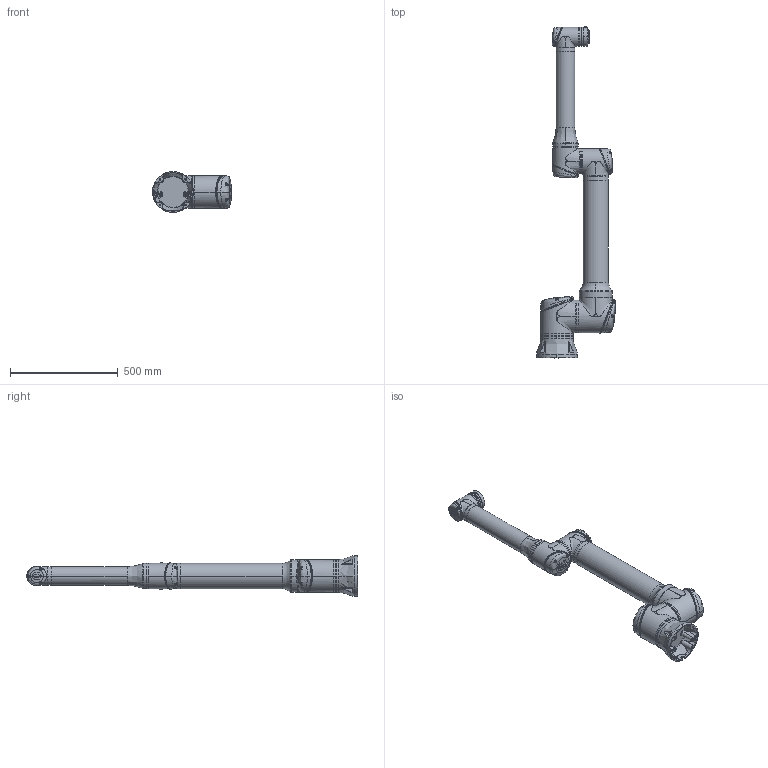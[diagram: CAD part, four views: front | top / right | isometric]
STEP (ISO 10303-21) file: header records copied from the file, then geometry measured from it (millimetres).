
FILE_DESCRIPTION (( 'STEP AP203' ), '1' );
FILE_NAME ('CS_掛极CS515RZ_V1.1.STEP', '2023-10-30T07:51:44', ( '' ), ( '' ), 'SwSTEP 2.0', 'SolidWorks 2017', '' );
FILE_SCHEMA (( 'CONFIG_CONTROL_DESIGN' ));
Length unit declared in the file: millimetre
Products named in the file (7): CS515RZ_Link2; CS515RZ_Flange; CS515RZ_Link1; CS515RZ_Base; CS_掛极CS515RZ_V1.1; CS515RZ_Link4-2; CS515RZ_Link3
Assembly tree (6 placements, depth 2):
  CS_掛极CS515RZ_V1.1
    CS515RZ_Base
    CS515RZ_Link1
    CS515RZ_Link2
    CS515RZ_Link3
    CS515RZ_Link4-2
    CS515RZ_Flange
Bounding box: 366.83 x 1542.42 x 189.7 mm (x, y, z)
Volume: 10257452 mm3; surface area: 1343159.9 mm2
Topology: 40 solids, 94 shells, 4693 faces, 11266 edges, 6749 vertices
Faces by surface type: bspline 1938, plane 1233, cylinder 882, cone 354, torus 188, sphere 98
Entity records: 482893 total; most frequent: CARTESIAN_POINT 390148, ORIENTED_EDGE 22007, DIRECTION 15099, EDGE_CURVE 11013, VERTEX_POINT 6733, AXIS2_PLACEMENT_3D 6268, EDGE_LOOP 4997, FACE_OUTER_BOUND 4693
